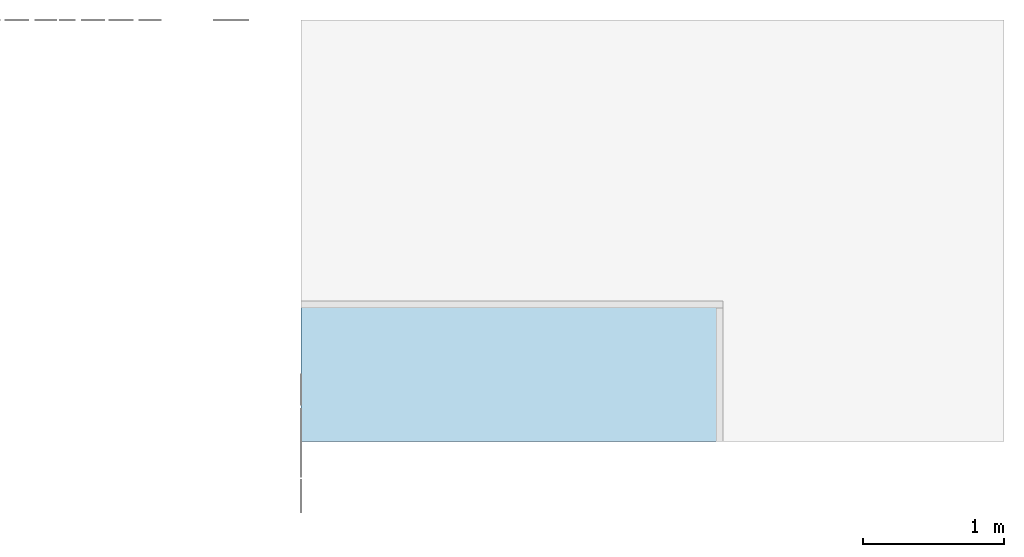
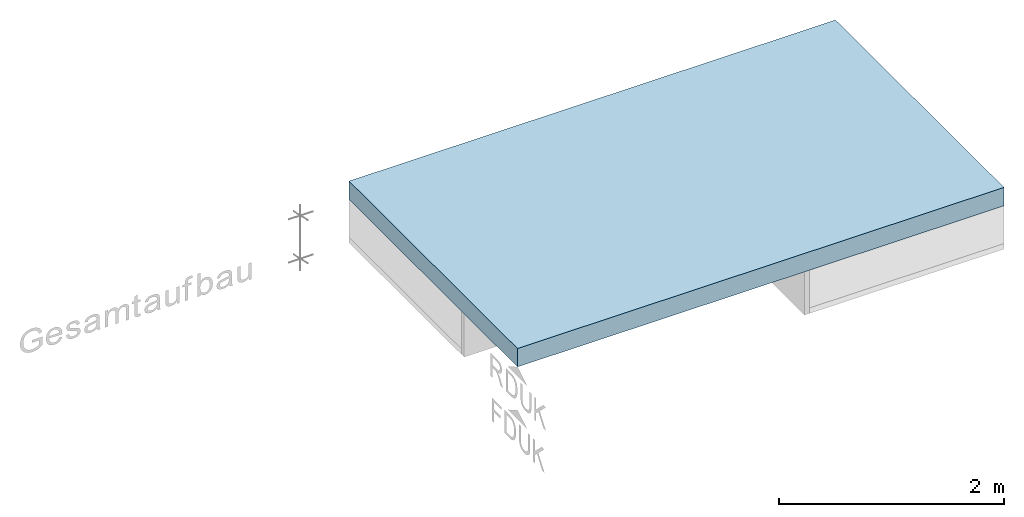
# One storey, part 1 of 3: 1 slab.
"""IFC4 building model written with IfcOpenShell, lengths in metres."""

from ifc_helpers import new_model, entity, si_unit, converted_unit, derived_unit, frame, origin, place, context, subcontext, project, spatial, faceted_brep, element, save


model = new_model("IFC4")

# Units and contexts
model_context = context("Model", 3, precision=1e-05, world=origin())
body_context = subcontext(model_context, "Body", "Model", "MODEL_VIEW")
ifc_project = project(units=[si_unit("LENGTHUNIT", "METRE"), si_unit("AREAUNIT", "SQUARE_METRE"), si_unit("VOLUMEUNIT", "CUBIC_METRE"), si_unit("MASSUNIT", "GRAM", prefix="KILO"), converted_unit("PLANEANGLEUNIT", "DEGREE", entity("IfcPlaneAngleMeasure", 0.0174532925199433), si_unit("PLANEANGLEUNIT", "RADIAN"), dimensions=[0, 0, 0, 0, 0, 0, 0]), derived_unit("THERMALTRANSMITTANCEUNIT", [(si_unit("POWERUNIT", "WATT"), 1), (si_unit("THERMODYNAMICTEMPERATUREUNIT", "KELVIN"), -1), (si_unit("LENGTHUNIT", "METRE"), -2)]), derived_unit("VOLUMETRICFLOWRATEUNIT", [(si_unit("LENGTHUNIT", "METRE"), 3), (converted_unit("TIMEUNIT", "hour", entity("IfcTimeMeasure", 3600.0), si_unit("TIMEUNIT", "SECOND"), dimensions=[0, 0, 1, 0, 0, 0, 0]), -1), (si_unit("LENGTHUNIT", "METRE"), -1)])], contexts=[model_context])

# Site, building, storey
site_placement = place(None, origin())
site = spatial("IfcSite", under=ifc_project, at=site_placement, Name="Liegenschaft", CompositionType="ELEMENT")
building_placement = place(site_placement, origin())
building = spatial("IfcBuilding", under=site, at=building_placement, Name="Gebäude", CompositionType="ELEMENT")
storey_placement = place(building_placement, origin())
storey = spatial("IfcBuildingStorey", under=building, at=storey_placement, Name="Geschoss 01", CompositionType="ELEMENT", Elevation=0.0)

# Slab
slab_placement = place(storey_placement, frame((236.15, 0.0, 2.5)))
element("IfcSlab", 1, at=slab_placement, inside=storey, PredefinedType="NOTDEFINED", context=body_context, shape_type="Brep", body=[
    faceted_brep([(0.0, 3.0, 0.0), (0.0, 0.0, 0.0), (5.0, 0.0, 0.0), (5.0, 3.0, 0.0), (0.0, 0.0, 0.2), (0.0, 3.0, 0.2), (5.0, 3.0, 0.2), (5.0, 0.0, 0.2)], [[[0, 1, 2, 3]], [[4, 5, 6, 7]], [[1, 0, 5, 4]], [[2, 1, 4, 7]], [[3, 2, 7, 6]], [[0, 3, 6, 5]]], orient=[[False], [False], [False], [False], [False], [False]]),
])

save(model, "model.ifc")
